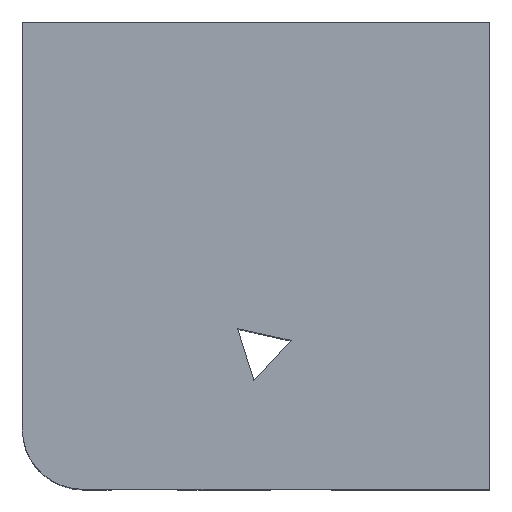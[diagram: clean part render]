
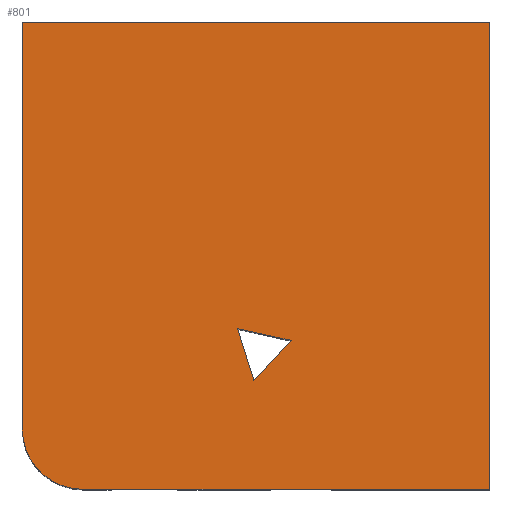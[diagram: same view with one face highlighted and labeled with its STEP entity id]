
A CAD part, top view. The second image highlights one B-rep face of the part: STEP entity #801.
In plain terms, the highlighted planar face has unit normal (0, 0, 1).
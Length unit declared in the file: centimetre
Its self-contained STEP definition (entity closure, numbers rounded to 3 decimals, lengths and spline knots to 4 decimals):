
#27 = DIRECTION ( 'NONE',  ( 1., 0., 0. ) ) ;
#36 = ORIENTED_EDGE ( 'NONE', *, *, #233, .T. ) ;
#51 = CARTESIAN_POINT ( 'NONE',  ( 575.0804, 318.5613, 1000. ) ) ;
#69 = EDGE_CURVE ( 'NONE', #931, #1321, #907, .T. ) ;
#82 = EDGE_CURVE ( 'NONE', #413, #325, #1139, .T. ) ;
#114 = CARTESIAN_POINT ( 'NONE',  ( 0., 1000., 1000. ) ) ;
#131 = DIRECTION ( 'NONE',  ( -0.301, 0.954, 0. ) ) ;
#146 = EDGE_LOOP ( 'NONE', ( #171, #670, #861 ) ) ;
#147 = CARTESIAN_POINT ( 'NONE',  ( 0., 129.2099, 1000. ) ) ;
#152 = FACE_BOUND ( 'NONE', #146, .T. ) ;
#168 = LINE ( 'NONE', #51, #1201 ) ;
#171 = ORIENTED_EDGE ( 'NONE', *, *, #348, .T. ) ;
#183 = LINE ( 'NONE', #541, #1108 ) ;
#203 = CARTESIAN_POINT ( 'NONE',  ( 495.6908, 231.8983, 1000. ) ) ;
#233 = EDGE_CURVE ( 'NONE', #737, #931, #1131, .T. ) ;
#240 = VERTEX_POINT ( 'NONE', #147 ) ;
#241 = CARTESIAN_POINT ( 'NONE',  ( 460.3333, 343.9833, 1000. ) ) ;
#260 = VECTOR ( 'NONE', #932, 100. ) ;
#292 = DIRECTION ( 'NONE',  ( 0., 0., 1. ) ) ;
#325 = VERTEX_POINT ( 'NONE', #1258 ) ;
#342 = EDGE_CURVE ( 'NONE', #240, #913, #587, .T. ) ;
#348 = EDGE_CURVE ( 'NONE', #654, #413, #183, .T. ) ;
#358 = ORIENTED_EDGE ( 'NONE', *, *, #463, .T. ) ;
#413 = VERTEX_POINT ( 'NONE', #203 ) ;
#416 = EDGE_LOOP ( 'NONE', ( #358, #1202, #1306, #36, #1315 ) ) ;
#445 = LINE ( 'NONE', #1230, #560 ) ;
#463 = EDGE_CURVE ( 'NONE', #1321, #240, #850, .T. ) ;
#507 = FACE_OUTER_BOUND ( 'NONE', #416, .T. ) ;
#519 = DIRECTION ( 'NONE',  ( 1., 0., 0. ) ) ;
#541 = CARTESIAN_POINT ( 'NONE',  ( 495.6908, 231.8983, 1000. ) ) ;
#560 = VECTOR ( 'NONE', #985, 100. ) ;
#587 = CIRCLE ( 'NONE', #681, 129.2099 ) ;
#621 = CARTESIAN_POINT ( 'NONE',  ( 575.0804, 318.5613, 1000. ) ) ;
#654 = VERTEX_POINT ( 'NONE', #621 ) ;
#660 = AXIS2_PLACEMENT_3D ( 'NONE', #1159, #1038, #27 ) ;
#670 = ORIENTED_EDGE ( 'NONE', *, *, #82, .T. ) ;
#681 = AXIS2_PLACEMENT_3D ( 'NONE', #1204, #292, #519 ) ;
#684 = VECTOR ( 'NONE', #131, 100. ) ;
#711 = CARTESIAN_POINT ( 'NONE',  ( 1000., 1000., 1000. ) ) ;
#737 = VERTEX_POINT ( 'NONE', #1284 ) ;
#755 = CARTESIAN_POINT ( 'NONE',  ( 1000., 1000., 1000. ) ) ;
#759 = EDGE_CURVE ( 'NONE', #325, #654, #168, .T. ) ;
#785 = DIRECTION ( 'NONE',  ( -1., 0., 0. ) ) ;
#801 = ADVANCED_FACE ( 'NONE', ( #152, #507 ), #1378, .T. ) ;
#850 = LINE ( 'NONE', #903, #1010 ) ;
#861 = ORIENTED_EDGE ( 'NONE', *, *, #759, .T. ) ;
#873 = DIRECTION ( 'NONE',  ( -0.675, -0.737, 0. ) ) ;
#900 = DIRECTION ( 'NONE',  ( 0., -1., 0. ) ) ;
#903 = CARTESIAN_POINT ( 'NONE',  ( 0., 1000., 1000. ) ) ;
#907 = LINE ( 'NONE', #114, #1320 ) ;
#913 = VERTEX_POINT ( 'NONE', #958 ) ;
#923 = CARTESIAN_POINT ( 'NONE',  ( 0., 1000., 1000. ) ) ;
#931 = VERTEX_POINT ( 'NONE', #755 ) ;
#932 = DIRECTION ( 'NONE',  ( 0., 1., 0. ) ) ;
#958 = CARTESIAN_POINT ( 'NONE',  ( 129.2099, 0., 1000. ) ) ;
#985 = DIRECTION ( 'NONE',  ( 1., 0., 0. ) ) ;
#1010 = VECTOR ( 'NONE', #900, 100. ) ;
#1038 = DIRECTION ( 'NONE',  ( 0., 0., 1. ) ) ;
#1046 = DIRECTION ( 'NONE',  ( 0.976, -0.216, 0. ) ) ;
#1108 = VECTOR ( 'NONE', #873, 100. ) ;
#1131 = LINE ( 'NONE', #711, #260 ) ;
#1139 = LINE ( 'NONE', #241, #684 ) ;
#1156 = EDGE_CURVE ( 'NONE', #913, #737, #445, .T. ) ;
#1159 = CARTESIAN_POINT ( 'NONE',  ( 0., 0., 1000. ) ) ;
#1201 = VECTOR ( 'NONE', #1046, 100. ) ;
#1202 = ORIENTED_EDGE ( 'NONE', *, *, #342, .T. ) ;
#1204 = CARTESIAN_POINT ( 'NONE',  ( 129.2099, 129.2099, 1000. ) ) ;
#1230 = CARTESIAN_POINT ( 'NONE',  ( 0., 0., 1000. ) ) ;
#1258 = CARTESIAN_POINT ( 'NONE',  ( 460.3333, 343.9833, 1000. ) ) ;
#1284 = CARTESIAN_POINT ( 'NONE',  ( 1000., 0., 1000. ) ) ;
#1306 = ORIENTED_EDGE ( 'NONE', *, *, #1156, .T. ) ;
#1315 = ORIENTED_EDGE ( 'NONE', *, *, #69, .T. ) ;
#1320 = VECTOR ( 'NONE', #785, 100. ) ;
#1321 = VERTEX_POINT ( 'NONE', #923 ) ;
#1378 = PLANE ( 'NONE',  #660 ) ;
